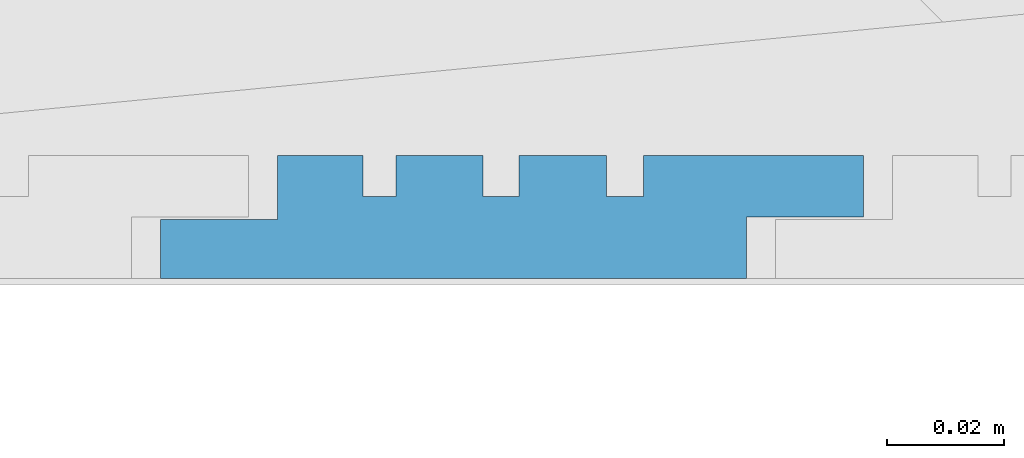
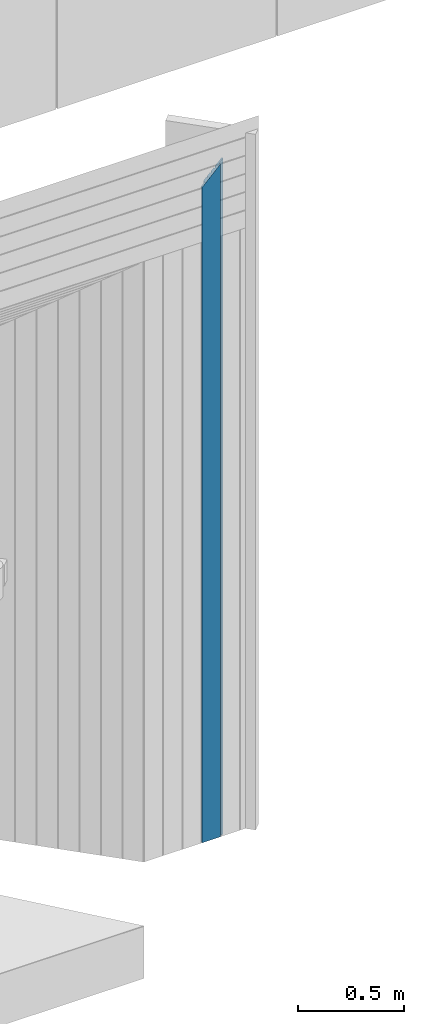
# One storey, part 105 of 418: 1 building element part, 1 element without a shape of its own.
"""IFC2X3 building model written with IfcOpenShell, lengths in millimetres."""

from ifc_helpers import new_model, entity, si_unit, converted_unit, derived_unit, money_unit, direction, frame, origin_with_axes, place, context, subcontext, project, spatial, polyline, outline, extrude, boolean, faceted_brep, material, type_object, element, aggregate, save


model = new_model("IFC2X3")

# Units and contexts
model_context = context("Model", 3, precision=0.01, world=origin_with_axes(), true_north=direction((0.0, 1.0)))
body_context = subcontext(model_context, "Body", "Model", "MODEL_VIEW")
ifc_project = project(units=[si_unit("LENGTHUNIT", "METRE", prefix="MILLI"), si_unit("AREAUNIT", "SQUARE_METRE"), si_unit("VOLUMEUNIT", "CUBIC_METRE"), converted_unit("PLANEANGLEUNIT", "DEGREE", entity("IfcPlaneAngleMeasure", 0.0174532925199), si_unit("PLANEANGLEUNIT", "RADIAN"), dimensions=[0, 0, 0, 0, 0, 0, 0]), si_unit("SOLIDANGLEUNIT", "STERADIAN"), money_unit("EUR"), converted_unit("TIMEUNIT", "Year", entity("IfcTimeMeasure", 31556926.0), si_unit("TIMEUNIT", "SECOND"), dimensions=[0, 0, 1, 0, 0, 0, 0]), si_unit("MASSUNIT", "GRAM", prefix="KILO"), si_unit("THERMODYNAMICTEMPERATUREUNIT", "DEGREE_CELSIUS"), si_unit("LUMINOUSINTENSITYUNIT", "LUMEN"), si_unit("ENERGYUNIT", "JOULE", prefix="MEGA"), derived_unit("THERMALCONDUCTANCEUNIT", [(si_unit("POWERUNIT", "WATT"), 1), (si_unit("LENGTHUNIT", "METRE"), -1), (si_unit("THERMODYNAMICTEMPERATUREUNIT", "KELVIN"), -1)]), derived_unit("SPECIFICHEATCAPACITYUNIT", [(si_unit("ENERGYUNIT", "JOULE"), 1), (si_unit("MASSUNIT", "GRAM", prefix="KILO"), -1), (si_unit("THERMODYNAMICTEMPERATUREUNIT", "KELVIN"), -1)]), derived_unit("MASSDENSITYUNIT", [(si_unit("MASSUNIT", "GRAM", prefix="KILO"), 1), (si_unit("VOLUMEUNIT", "CUBIC_METRE"), -1)])], contexts=[model_context])

# Site, building, storey
site_placement = place(None, origin_with_axes())
site = spatial("IfcSite", under=ifc_project, at=site_placement, Name="Paldiski mnt 245/1, Tallinn, Harjumaa", CompositionType="COMPLEX")
building_placement = place(site_placement, origin_with_axes())
building = spatial("IfcBuilding", under=site, at=building_placement, Name="RKAS Hoone üldnimetus (kasutust iseloomustav) -> IFC Project Manager -> SOLIBRI", CompositionType="ELEMENT")
storey_placement = place(building_placement, origin_with_axes())
storey = spatial("IfcBuildingStorey", under=building, at=storey_placement, Name="Esimene korrus", CompositionType="ELEMENT", Elevation=0.0)

# Proxy, building element part
building_element_proxy_type = type_object("IfcBuildingElementProxyType", Name="Laudis esiprofiil_01 21 x 622", PredefinedType="NOTDEFINED")
proxy_placement = place(storey_placement, frame((-37270.373884, -18705.5141429, 0.0), z_axis=(0.0, 0.0, 1.0), x_axis=(0.0, -1.0, 0.0)))
proxy = element("IfcBuildingElementProxy", 1, at=proxy_placement, inside=storey, type_object=building_element_proxy_type, Name="Varikatus")
ifc_material = material(Name="Laudis 5072 Honka 45 horisontaalne raastas")
building_element_part_placement = place(proxy_placement, origin_with_axes())
building_element_part = element("IfcBuildingElementPart", 2, at=building_element_part_placement, material=ifc_material, Name="Laudis 5072 Honka 45 horisontaalne raastas", context=body_context, shape_type="CSG", body=[
    boolean("DIFFERENCE", boolean("DIFFERENCE", boolean("DIFFERENCE", boolean("DIFFERENCE", boolean("DIFFERENCE", boolean("DIFFERENCE", extrude(outline(polyline([(3.20348192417e-08, -205.971430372), (-10.5000010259, -205.971430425), (-10.5000005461, -185.971429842), (-20.9999998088, -185.971430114), (-21.0000010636, -223.497524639), (-14.0000005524, -223.497525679), (-14.0000003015, -229.860022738), (-20.99999981, -229.860022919), (-20.9999998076, -244.79914009), (-14.0000002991, -244.799139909), (-14.0000007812, -250.926080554), (-21.0000002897, -250.926080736), (-21.0000013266, -265.754573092), (-14.0000008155, -265.754574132), (-14.0000015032, -271.395242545), (-21.0000010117, -271.395242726), (-21.0000007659, -285.971429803), (-10.000001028, -285.971430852), (-10.0000002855, -305.971430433), (-7.63172636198e-07, -305.971430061), (3.20348192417e-08, -205.971430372)])), origin_with_axes(), (0.0, 0.0, 1.0), 4086.15997799), faceted_brep([(-10.5000005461, -395.971429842, 3689.02857134), (-20.9999998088, -395.971430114, 3689.02857107), (-20.9999998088, -395.971430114, 4086.15997799), (-10.5000005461, -395.971429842, 4086.15997799), (-21.0000010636, -433.497524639, 3651.50247655), (-10.5000010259, -415.971430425, 3669.02857076), (3.20348192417e-08, -415.971430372, 3669.02857081), (-7.63172636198e-07, -515.971430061, 3569.02857112), (-10.0000002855, -515.971430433, 3569.02857075), (-10.000001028, -495.971430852, 3589.02857033), (-21.0000007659, -495.971429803, 3589.02857138), (-21.0000010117, -481.395242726, 3603.60475846), (-14.0000015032, -481.395242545, 3603.60475864), (-14.0000008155, -475.754574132, 3609.24542705), (-21.0000013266, -475.754573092, 3609.24542809), (-21.0000002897, -460.926080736, 3624.07392045), (-14.0000007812, -460.926080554, 3624.07392063), (-14.0000002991, -454.799139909, 3630.20086128), (-20.9999998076, -454.79914009, 3630.20086109), (-20.99999981, -439.860022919, 3645.13997827), (-14.0000003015, -439.860022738, 3645.13997845), (-14.0000005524, -433.497525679, 3651.50247551), (-21.0000010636, -433.497524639, 4086.15997799), (-7.63172636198e-07, -515.971430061, 4086.15997799), (3.20348192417e-08, -415.971430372, 4086.15997799), (-10.5000010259, -415.971430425, 4086.15997799), (-14.0000005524, -433.497525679, 4086.15997799), (-14.0000003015, -439.860022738, 4086.15997799), (-20.99999981, -439.860022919, 4086.15997799), (-20.9999998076, -454.79914009, 4086.15997799), (-14.0000002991, -454.799139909, 4086.15997799), (-14.0000007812, -460.926080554, 4086.15997799), (-21.0000002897, -460.926080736, 4086.15997799), (-21.0000013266, -475.754573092, 4086.15997799), (-14.0000008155, -475.754574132, 4086.15997799), (-14.0000015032, -481.395242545, 4086.15997799), (-21.0000010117, -481.395242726, 4086.15997799), (-21.0000007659, -495.971429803, 4086.15997799), (-10.000001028, -495.971430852, 4086.15997799), (-10.0000002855, -515.971430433, 4086.15997799)], [[[0, 1, 2, 3]], [[4, 1, 0, 5, 6, 7, 8, 9, 10, 11, 12, 13, 14, 15, 16, 17, 18, 19, 20, 21]], [[1, 4, 22, 2]], [[23, 24, 25, 3, 2, 22, 26, 27, 28, 29, 30, 31, 32, 33, 34, 35, 36, 37, 38, 39]], [[5, 0, 3, 25]], [[6, 5, 25, 24]], [[7, 6, 24, 23]], [[8, 7, 23, 39]], [[9, 8, 39, 38]], [[10, 9, 38, 37]], [[11, 10, 37, 36]], [[12, 11, 36, 35]], [[13, 12, 35, 34]], [[14, 13, 34, 33]], [[15, 14, 33, 32]], [[16, 15, 32, 31]], [[17, 16, 31, 30]], [[18, 17, 30, 29]], [[19, 18, 29, 28]], [[20, 19, 28, 27]], [[21, 20, 27, 26]], [[4, 21, 26, 22]]])), faceted_brep([(-10.5000005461, -500.971429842, 3584.02857134), (-20.9999998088, -500.971430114, 3584.02857107), (-20.9999998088, -500.971430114, 4086.15997799), (-10.5000005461, -500.971429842, 4086.15997799), (-21.0000010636, -538.497524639, 3546.50247655), (-10.5000010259, -520.971430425, 3564.02857076), (3.20348192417e-08, -520.971430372, 3564.02857081), (-7.63172636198e-07, -620.971430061, 3464.02857112), (-10.0000002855, -620.971430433, 3464.02857075), (-10.000001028, -600.971430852, 3484.02857033), (-21.0000007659, -600.971429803, 3484.02857138), (-21.0000010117, -586.395242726, 3498.60475846), (-14.0000015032, -586.395242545, 3498.60475864), (-14.0000008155, -580.754574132, 3504.24542705), (-21.0000013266, -580.754573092, 3504.24542809), (-21.0000002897, -565.926080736, 3519.07392045), (-14.0000007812, -565.926080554, 3519.07392063), (-14.0000002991, -559.799139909, 3525.20086128), (-20.9999998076, -559.79914009, 3525.20086109), (-20.99999981, -544.860022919, 3540.13997827), (-14.0000003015, -544.860022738, 3540.13997845), (-14.0000005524, -538.497525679, 3546.50247551), (-21.0000010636, -538.497524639, 4086.15997799), (-7.63172636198e-07, -620.971430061, 4086.15997799), (3.20348192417e-08, -520.971430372, 4086.15997799), (-10.5000010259, -520.971430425, 4086.15997799), (-14.0000005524, -538.497525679, 4086.15997799), (-14.0000003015, -544.860022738, 4086.15997799), (-20.99999981, -544.860022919, 4086.15997799), (-20.9999998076, -559.79914009, 4086.15997799), (-14.0000002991, -559.799139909, 4086.15997799), (-14.0000007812, -565.926080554, 4086.15997799), (-21.0000002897, -565.926080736, 4086.15997799), (-21.0000013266, -580.754573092, 4086.15997799), (-14.0000008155, -580.754574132, 4086.15997799), (-14.0000015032, -586.395242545, 4086.15997799), (-21.0000010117, -586.395242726, 4086.15997799), (-21.0000007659, -600.971429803, 4086.15997799), (-10.000001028, -600.971430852, 4086.15997799), (-10.0000002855, -620.971430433, 4086.15997799)], [[[0, 1, 2, 3]], [[4, 1, 0, 5, 6, 7, 8, 9, 10, 11, 12, 13, 14, 15, 16, 17, 18, 19, 20, 21]], [[1, 4, 22, 2]], [[23, 24, 25, 3, 2, 22, 26, 27, 28, 29, 30, 31, 32, 33, 34, 35, 36, 37, 38, 39]], [[5, 0, 3, 25]], [[6, 5, 25, 24]], [[7, 6, 24, 23]], [[8, 7, 23, 39]], [[9, 8, 39, 38]], [[10, 9, 38, 37]], [[11, 10, 37, 36]], [[12, 11, 36, 35]], [[13, 12, 35, 34]], [[14, 13, 34, 33]], [[15, 14, 33, 32]], [[16, 15, 32, 31]], [[17, 16, 31, 30]], [[18, 17, 30, 29]], [[19, 18, 29, 28]], [[20, 19, 28, 27]], [[21, 20, 27, 26]], [[4, 21, 26, 22]]])), faceted_brep([(-10.5000005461, -185.971429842, 3899.02857134), (-20.9999998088, -185.971430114, 3899.02857107), (-20.9999998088, -185.971430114, 4086.15997799), (-10.5000005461, -185.971429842, 4086.15997799), (-21.0000010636, -223.497524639, 3861.50247655), (-10.5000010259, -205.971430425, 3879.02857076), (3.20348192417e-08, -205.971430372, 3879.02857081), (-7.63172636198e-07, -305.971430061, 3779.02857112), (-10.0000002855, -305.971430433, 3779.02857075), (-10.000001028, -285.971430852, 3799.02857033), (-21.0000007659, -285.971429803, 3799.02857138), (-21.0000010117, -271.395242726, 3813.60475846), (-14.0000015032, -271.395242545, 3813.60475864), (-14.0000008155, -265.754574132, 3819.24542705), (-21.0000013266, -265.754573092, 3819.24542809), (-21.0000002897, -250.926080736, 3834.07392045), (-14.0000007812, -250.926080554, 3834.07392063), (-14.0000002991, -244.799139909, 3840.20086128), (-20.9999998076, -244.79914009, 3840.20086109), (-20.99999981, -229.860022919, 3855.13997827), (-14.0000003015, -229.860022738, 3855.13997845), (-14.0000005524, -223.497525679, 3861.50247551), (-21.0000010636, -223.497524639, 4086.15997799), (-7.63172636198e-07, -305.971430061, 4086.15997799), (3.20348192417e-08, -205.971430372, 4086.15997799), (-10.5000010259, -205.971430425, 4086.15997799), (-14.0000005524, -223.497525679, 4086.15997799), (-14.0000003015, -229.860022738, 4086.15997799), (-20.99999981, -229.860022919, 4086.15997799), (-20.9999998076, -244.79914009, 4086.15997799), (-14.0000002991, -244.799139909, 4086.15997799), (-14.0000007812, -250.926080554, 4086.15997799), (-21.0000002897, -250.926080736, 4086.15997799), (-21.0000013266, -265.754573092, 4086.15997799), (-14.0000008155, -265.754574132, 4086.15997799), (-14.0000015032, -271.395242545, 4086.15997799), (-21.0000010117, -271.395242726, 4086.15997799), (-21.0000007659, -285.971429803, 4086.15997799), (-10.000001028, -285.971430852, 4086.15997799), (-10.0000002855, -305.971430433, 4086.15997799)], [[[0, 1, 2, 3]], [[4, 1, 0, 5, 6, 7, 8, 9, 10, 11, 12, 13, 14, 15, 16, 17, 18, 19, 20, 21]], [[1, 4, 22, 2]], [[23, 24, 25, 3, 2, 22, 26, 27, 28, 29, 30, 31, 32, 33, 34, 35, 36, 37, 38, 39]], [[5, 0, 3, 25]], [[6, 5, 25, 24]], [[7, 6, 24, 23]], [[8, 7, 23, 39]], [[9, 8, 39, 38]], [[10, 9, 38, 37]], [[11, 10, 37, 36]], [[12, 11, 36, 35]], [[13, 12, 35, 34]], [[14, 13, 34, 33]], [[15, 14, 33, 32]], [[16, 15, 32, 31]], [[17, 16, 31, 30]], [[18, 17, 30, 29]], [[19, 18, 29, 28]], [[20, 19, 28, 27]], [[21, 20, 27, 26]], [[4, 21, 26, 22]]])), faceted_brep([(-10.5000005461, -290.971429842, 3794.02857134), (-20.9999998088, -290.971430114, 3794.02857107), (-20.9999998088, -290.971430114, 4086.15997799), (-10.5000005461, -290.971429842, 4086.15997799), (-21.0000010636, -328.497524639, 3756.50247655), (-10.5000010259, -310.971430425, 3774.02857076), (3.20348192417e-08, -310.971430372, 3774.02857081), (-7.63172636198e-07, -410.971430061, 3674.02857112), (-10.0000002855, -410.971430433, 3674.02857075), (-10.000001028, -390.971430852, 3694.02857033), (-21.0000007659, -390.971429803, 3694.02857138), (-21.0000010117, -376.395242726, 3708.60475846), (-14.0000015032, -376.395242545, 3708.60475864), (-14.0000008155, -370.754574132, 3714.24542705), (-21.0000013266, -370.754573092, 3714.24542809), (-21.0000002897, -355.926080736, 3729.07392045), (-14.0000007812, -355.926080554, 3729.07392063), (-14.0000002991, -349.799139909, 3735.20086128), (-20.9999998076, -349.79914009, 3735.20086109), (-20.99999981, -334.860022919, 3750.13997827), (-14.0000003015, -334.860022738, 3750.13997845), (-14.0000005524, -328.497525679, 3756.50247551), (-21.0000010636, -328.497524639, 4086.15997799), (-7.63172636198e-07, -410.971430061, 4086.15997799), (3.20348192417e-08, -310.971430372, 4086.15997799), (-10.5000010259, -310.971430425, 4086.15997799), (-14.0000005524, -328.497525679, 4086.15997799), (-14.0000003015, -334.860022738, 4086.15997799), (-20.99999981, -334.860022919, 4086.15997799), (-20.9999998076, -349.79914009, 4086.15997799), (-14.0000002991, -349.799139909, 4086.15997799), (-14.0000007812, -355.926080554, 4086.15997799), (-21.0000002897, -355.926080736, 4086.15997799), (-21.0000013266, -370.754573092, 4086.15997799), (-14.0000008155, -370.754574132, 4086.15997799), (-14.0000015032, -376.395242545, 4086.15997799), (-21.0000010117, -376.395242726, 4086.15997799), (-21.0000007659, -390.971429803, 4086.15997799), (-10.000001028, -390.971430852, 4086.15997799), (-10.0000002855, -410.971430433, 4086.15997799)], [[[0, 1, 2, 3]], [[4, 1, 0, 5, 6, 7, 8, 9, 10, 11, 12, 13, 14, 15, 16, 17, 18, 19, 20, 21]], [[1, 4, 22, 2]], [[23, 24, 25, 3, 2, 22, 26, 27, 28, 29, 30, 31, 32, 33, 34, 35, 36, 37, 38, 39]], [[5, 0, 3, 25]], [[6, 5, 25, 24]], [[7, 6, 24, 23]], [[8, 7, 23, 39]], [[9, 8, 39, 38]], [[10, 9, 38, 37]], [[11, 10, 37, 36]], [[12, 11, 36, 35]], [[13, 12, 35, 34]], [[14, 13, 34, 33]], [[15, 14, 33, 32]], [[16, 15, 32, 31]], [[17, 16, 31, 30]], [[18, 17, 30, 29]], [[19, 18, 29, 28]], [[20, 19, 28, 27]], [[21, 20, 27, 26]], [[4, 21, 26, 22]]])), faceted_brep([(-1.4387921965e-06, -95.9714304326, 3989.02857075), (8.28137558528e-09, 1.13997680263, 4086.13997799), (8.28137558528e-09, 1.13997680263, 4086.15997799), (-1.4387921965e-06, -95.9714304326, 4086.15997799), (-14.0000008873, -12.860024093, 4072.13997709), (-10.0000000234, -95.9714304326, 3989.02857075), (-10.0000014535, -75.9714304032, 4009.02857078), (-21.0000013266, -75.9714304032, 4009.02857078), (-21.0000013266, -61.3952431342, 4023.60475805), (-14.0000008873, -61.3952431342, 4023.60475805), (-14.0000008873, -55.7545748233, 4029.24542636), (-21.0000013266, -55.7545733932, 4029.24542779), (-20.9999998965, -40.9260801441, 4044.07392104), (-14.0000008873, -40.9260801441, 4044.07392104), (-14.0000008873, -34.7991393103, 4050.20086187), (-20.9999998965, -34.7991407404, 4050.20086044), (-20.9999998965, -19.8600231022, 4065.13997808), (-14.0000008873, -19.8600231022, 4065.13997808), (-14.0000008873, -12.860024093, 4086.15997799), (-20.9999998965, -40.9260801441, 4086.15997799), (-21.0000013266, -55.7545733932, 4086.15997799), (-14.0000008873, -55.7545748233, 4086.15997799), (-14.0000008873, -61.3952431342, 4086.15997799), (-21.0000013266, -61.3952431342, 4086.15997799), (-21.0000013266, -75.9714304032, 4086.15997799), (-10.0000014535, -75.9714304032, 4086.15997799), (-10.0000000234, -95.9714304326, 4086.15997799), (-14.0000008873, -19.8600231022, 4086.15997799), (-20.9999998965, -19.8600231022, 4086.15997799), (-20.9999998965, -34.7991407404, 4086.15997799), (-14.0000008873, -34.7991393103, 4086.15997799), (-14.0000008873, -40.9260801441, 4086.15997799)], [[[0, 1, 2, 3]], [[4, 1, 0, 5, 6, 7, 8, 9, 10, 11, 12, 13, 14, 15, 16, 17]], [[1, 4, 18, 2]], [[19, 20, 21, 22, 23, 24, 25, 26, 3, 2, 18, 27, 28, 29, 30, 31]], [[5, 0, 3, 26]], [[6, 5, 26, 25]], [[7, 6, 25, 24]], [[8, 7, 24, 23]], [[9, 8, 23, 22]], [[10, 9, 22, 21]], [[11, 10, 21, 20]], [[12, 11, 20, 19]], [[13, 12, 19, 31]], [[14, 13, 31, 30]], [[15, 14, 30, 29]], [[16, 15, 29, 28]], [[17, 16, 28, 27]], [[4, 17, 27, 18]]])), faceted_brep([(-10.5000005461, -80.9714298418, 4004.02857134), (-20.9999998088, -80.9714301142, 4004.02857107), (-20.9999998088, -80.9714301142, 4086.15997799), (-10.5000005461, -80.9714298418, 4086.15997799), (-21.0000010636, -118.497524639, 3966.50247655), (-10.5000010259, -100.971430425, 3984.02857076), (3.20348192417e-08, -100.971430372, 3984.02857081), (-7.63172636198e-07, -200.971430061, 3884.02857112), (-10.0000002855, -200.971430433, 3884.02857075), (-10.000001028, -180.971430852, 3904.02857033), (-21.0000007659, -180.971429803, 3904.02857138), (-21.0000010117, -166.395242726, 3918.60475846), (-14.0000015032, -166.395242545, 3918.60475864), (-14.0000008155, -160.754574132, 3924.24542705), (-21.0000013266, -160.754573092, 3924.24542809), (-21.0000002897, -145.926080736, 3939.07392045), (-14.0000007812, -145.926080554, 3939.07392063), (-14.0000002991, -139.799139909, 3945.20086128), (-20.9999998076, -139.79914009, 3945.20086109), (-20.99999981, -124.860022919, 3960.13997827), (-14.0000003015, -124.860022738, 3960.13997845), (-14.0000005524, -118.497525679, 3966.50247551), (-21.0000010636, -118.497524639, 4086.15997799), (-7.63172636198e-07, -200.971430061, 4086.15997799), (3.20348192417e-08, -100.971430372, 4086.15997799), (-10.5000010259, -100.971430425, 4086.15997799), (-14.0000005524, -118.497525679, 4086.15997799), (-14.0000003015, -124.860022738, 4086.15997799), (-20.99999981, -124.860022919, 4086.15997799), (-20.9999998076, -139.79914009, 4086.15997799), (-14.0000002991, -139.799139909, 4086.15997799), (-14.0000007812, -145.926080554, 4086.15997799), (-21.0000002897, -145.926080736, 4086.15997799), (-21.0000013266, -160.754573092, 4086.15997799), (-14.0000008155, -160.754574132, 4086.15997799), (-14.0000015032, -166.395242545, 4086.15997799), (-21.0000010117, -166.395242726, 4086.15997799), (-21.0000007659, -180.971429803, 4086.15997799), (-10.000001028, -180.971430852, 4086.15997799), (-10.0000002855, -200.971430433, 4086.15997799)], [[[0, 1, 2, 3]], [[4, 1, 0, 5, 6, 7, 8, 9, 10, 11, 12, 13, 14, 15, 16, 17, 18, 19, 20, 21]], [[1, 4, 22, 2]], [[23, 24, 25, 3, 2, 22, 26, 27, 28, 29, 30, 31, 32, 33, 34, 35, 36, 37, 38, 39]], [[5, 0, 3, 25]], [[6, 5, 25, 24]], [[7, 6, 24, 23]], [[8, 7, 23, 39]], [[9, 8, 39, 38]], [[10, 9, 38, 37]], [[11, 10, 37, 36]], [[12, 11, 36, 35]], [[13, 12, 35, 34]], [[14, 13, 34, 33]], [[15, 14, 33, 32]], [[16, 15, 32, 31]], [[17, 16, 31, 30]], [[18, 17, 30, 29]], [[19, 18, 29, 28]], [[20, 19, 28, 27]], [[21, 20, 27, 26]], [[4, 21, 26, 22]]])),
])
aggregate(proxy, [building_element_part])

save(model, "model.ifc")
